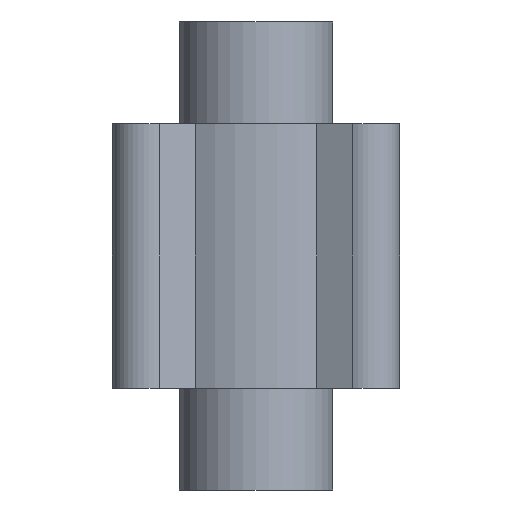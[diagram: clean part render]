
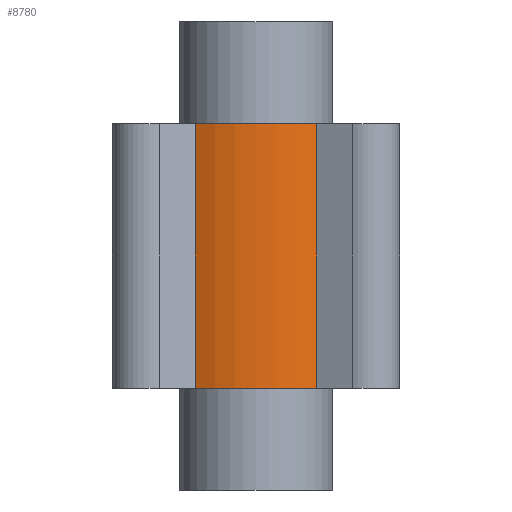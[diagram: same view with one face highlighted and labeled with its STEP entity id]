
A CAD part, front view. The second image highlights one B-rep face of the part: STEP entity #8780.
In plain terms, the highlighted cylindrical face has radius 45.4 mm (diameter 90.8 mm), a partial arc.
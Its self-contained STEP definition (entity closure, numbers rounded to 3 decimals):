
#2900=CARTESIAN_POINT('',(12.,-43.017,-14.515));
#2910=VERTEX_POINT('',#2900);
#2940=CARTESIAN_POINT('',(12.,-43.017,-14.515));
#2950=DIRECTION('',(-1.,0.,0.));
#2960=VECTOR('',#2950,1.);
#2970=LINE('',#2940,#2960);
#2980=CARTESIAN_POINT('',(-75.5,-43.017,-14.515));
#2990=VERTEX_POINT('',#2980);
#3000=EDGE_CURVE('',#2910,#2990,#2970,.T.);
#4870=CARTESIAN_POINT('',(-75.5,0.,0.));
#4880=DIRECTION('',(-1.,0.,0.));
#4890=DIRECTION('',(0.,0.,1.));
#4900=AXIS2_PLACEMENT_3D('',#4870,#4880,#4890);
#4910=CIRCLE('',#4900,45.4);
#4920=CARTESIAN_POINT('',(-75.5,-14.515,-43.017));
#4930=VERTEX_POINT('',#4920);
#4940=EDGE_CURVE('',#4930,#2990,#4910,.T.);
#6330=CARTESIAN_POINT('',(12.,-14.515,-43.017));
#6340=VERTEX_POINT('',#6330);
#6370=CARTESIAN_POINT('',(12.,0.,0.));
#6380=DIRECTION('',(-1.,0.,0.));
#6390=DIRECTION('',(0.,0.,1.));
#6400=AXIS2_PLACEMENT_3D('',#6370,#6380,#6390);
#6410=CIRCLE('',#6400,45.4);
#6420=EDGE_CURVE('',#6340,#2910,#6410,.T.);
#8470=CARTESIAN_POINT('',(12.,-14.515,-43.017));
#8480=DIRECTION('',(-1.,0.,0.));
#8490=VECTOR('',#8480,1.);
#8500=LINE('',#8470,#8490);
#8510=EDGE_CURVE('',#6340,#4930,#8500,.T.);
#8670=CARTESIAN_POINT('',(110.,0.,0.));
#8680=DIRECTION('',(-1.,0.,0.));
#8690=DIRECTION('',(0.,0.,1.));
#8700=AXIS2_PLACEMENT_3D('',#8670,#8680,#8690);
#8710=CYLINDRICAL_SURFACE('',#8700,45.4);
#8720=ORIENTED_EDGE('',*,*,#4940,.F.);
#8730=ORIENTED_EDGE('',*,*,#3000,.T.);
#8740=ORIENTED_EDGE('',*,*,#6420,.T.);
#8750=ORIENTED_EDGE('',*,*,#8510,.F.);
#8760=EDGE_LOOP('',(#8750,#8740,#8730,#8720));
#8770=FACE_OUTER_BOUND('',#8760,.T.);
#8780=ADVANCED_FACE('',(#8770),#8710,.T.);
